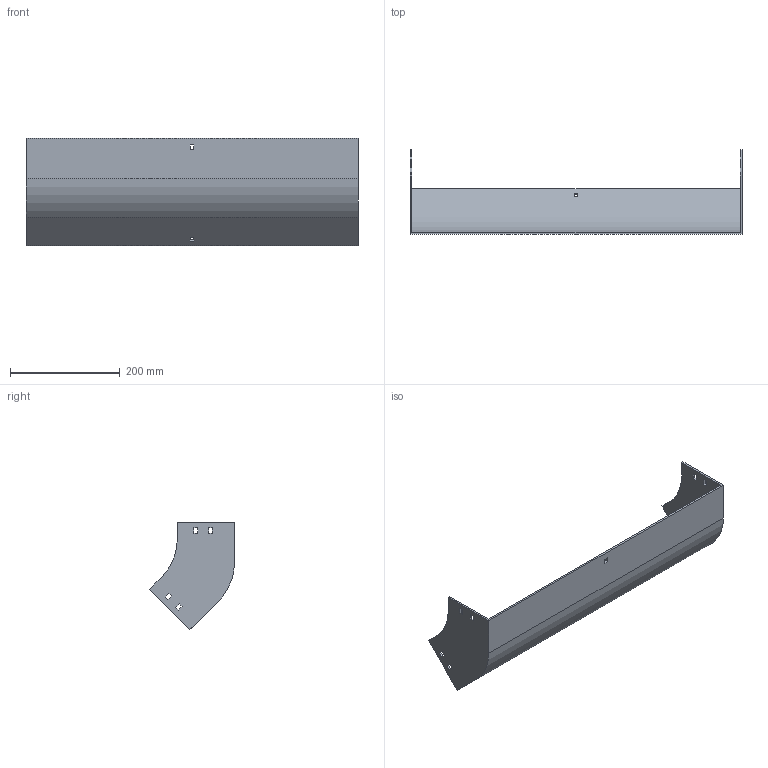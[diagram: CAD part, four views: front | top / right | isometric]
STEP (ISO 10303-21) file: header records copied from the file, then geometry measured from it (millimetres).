
FILE_DESCRIPTION (( 'STEP AP214' ), '1' );
FILE_NAME ('31F1D600.step', '2025-02-21T12:59:16', ( '' ), ( '' ), 'SwSTEP 2.0', 'SolidWorks 2023', '' );
FILE_SCHEMA (( 'AUTOMOTIVE_DESIGN' ));
Length unit declared in the file: millimetre
Products named in the file (1): 31F1D600
Bounding box: 604 x 154.5 x 195.46 mm (x, y, z)
Volume: 599611.8 mm3; surface area: 350418.7 mm2
Topology: 1 solids, 1 shells, 58 faces, 168 edges, 112 vertices
Faces by surface type: plane 54, cylinder 4
Entity records: 1943 total; most frequent: CARTESIAN_POINT 339, ORIENTED_EDGE 336, DIRECTION 294, EDGE_CURVE 168, LINE 160, VECTOR 160, VERTEX_POINT 112, EDGE_LOOP 78
